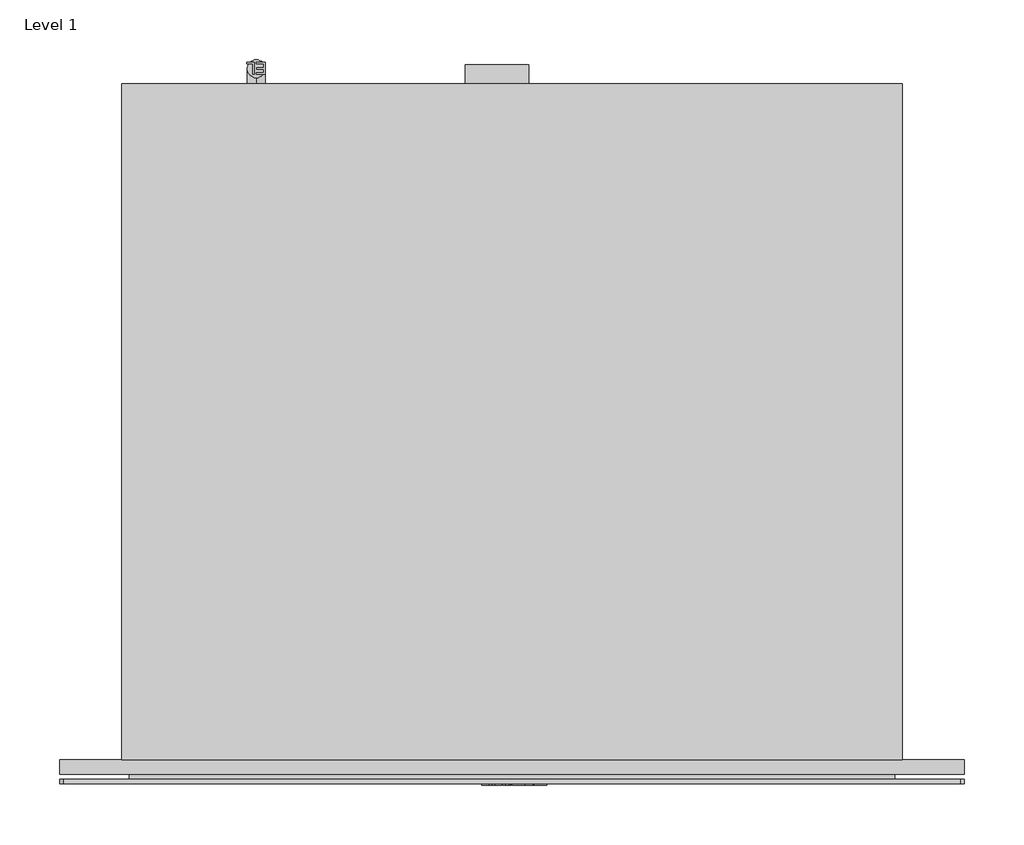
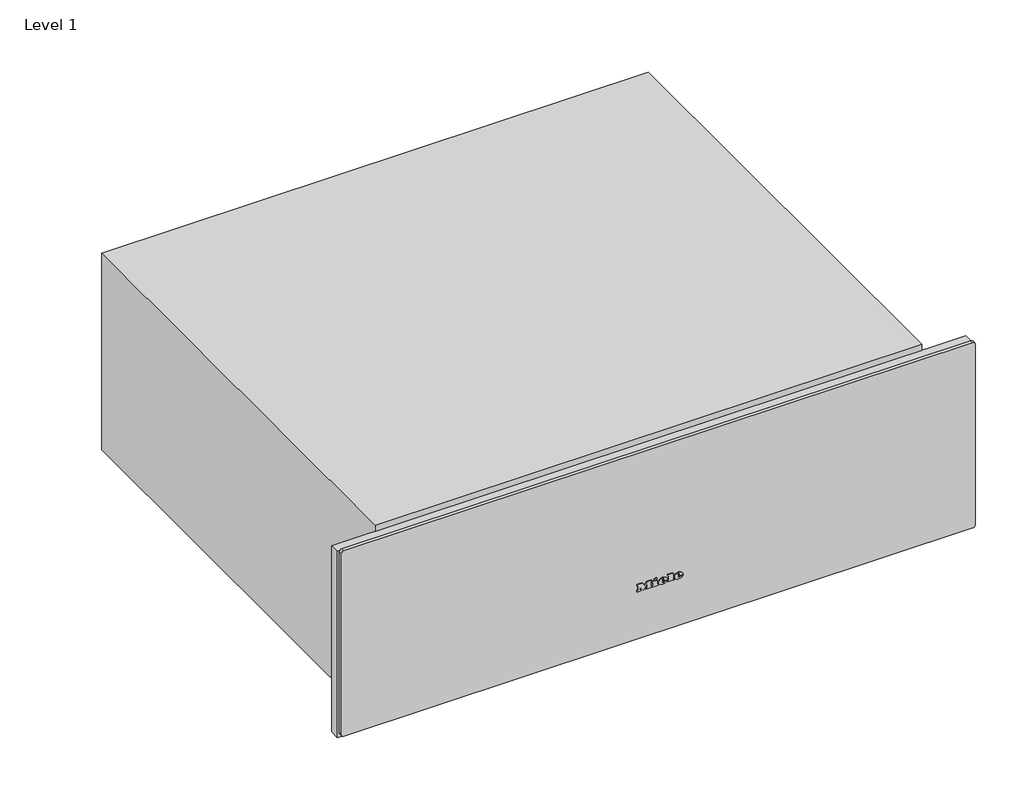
# One storey: 1 proxy.
"""IFC4 building model written with IfcOpenShell, lengths in millimetres."""

from ifc_helpers import new_model, si_unit, origin, place, context, project, spatial, transform, mapped, element, save
from components import specialty_equipment_59f16601

model = new_model("IFC4")

# Units and contexts
model_context = context("Model", 3, world=origin())
ifc_project = project(units=[si_unit("LENGTHUNIT", "METRE", prefix="MILLI")], contexts=[model_context])

# Site, building, storey
site = spatial("IfcSite", under=ifc_project)
building = spatial("IfcBuilding", under=site)
storey = spatial("IfcBuildingStorey", under=building, Name="Level 1", Elevation=0.0)

# Proxy
placement = place(None, origin())
specialty_equipment_shape = specialty_equipment_59f16601(model_context)
element("IfcBuildingElementProxy", 1, Name="11788780_BR_EVS7670_OBSW : 30767022_BR_11788780_EVS7670_OBSW", ObjectType="11788780_BR_EVS7670_OBSW : 30767022_BR_11788780_EVS7670_OBSW", at=placement, inside=storey, context=model_context, shape_type="MappedRepresentation", body=[
    mapped(specialty_equipment_shape, transform((0.0, 0.0, 0.0), x_axis=(1.0, 0.0, 0.0), y_axis=(0.0, 1.0, 0.0), z_axis=(0.0, 0.0, 1.0))),
])

save(model, "model.ifc")
